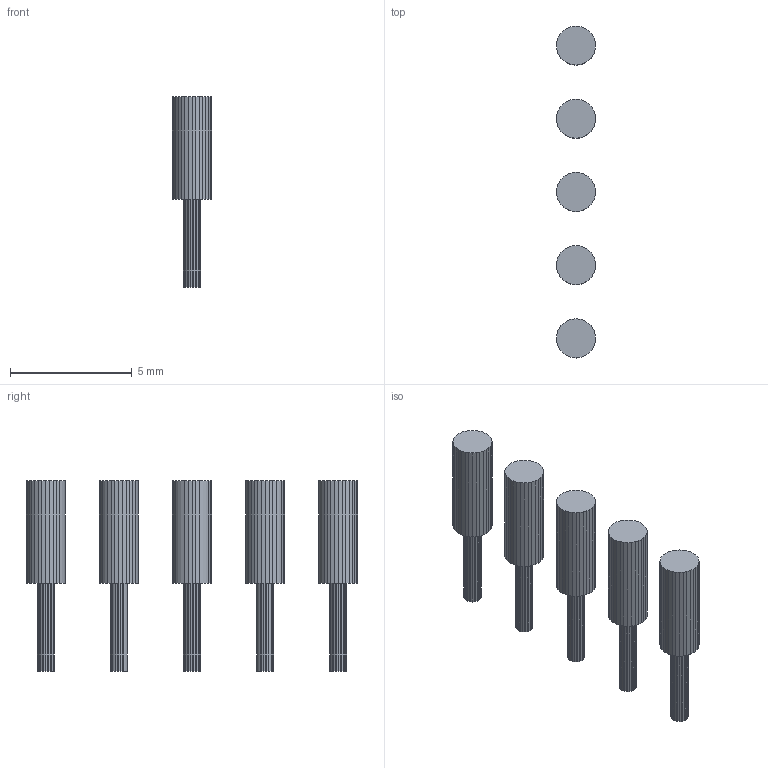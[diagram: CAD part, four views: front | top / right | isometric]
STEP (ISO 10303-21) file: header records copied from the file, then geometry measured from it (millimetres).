
FILE_DESCRIPTION(('FreeCAD Model'),'2;1');
FILE_NAME('Open CASCADE Shape Model','2026-09-21T21:53:17',('FreeCAD'),( 'FreeCAD'),'Open CASCADE STEP processor 7.8','FreeCAD','Unknown');
FILE_SCHEMA(('AUTOMOTIVE_DESIGN { 1 0 10303 214 1 1 1 1 }'));
Length unit declared in the file: millimetre
Products named in the file (1): Open CASCADE STEP translator 7.8 1
Bounding box: 1.6 x 13.6 x 7.8 mm (x, y, z)
Volume: 48.8 mm3; surface area: 168.7 mm2
Topology: 10 solids, 10 shells, 340 faces, 960 edges, 640 vertices
Faces by surface type: plane 340
Entity records: 10756 total; most frequent: CARTESIAN_POINT 1941, ORIENTED_EDGE 1920, DIRECTION 1642, EDGE_CURVE 960, LINE 960, VECTOR 960, VERTEX_POINT 640, AXIS2_PLACEMENT_3D 341
